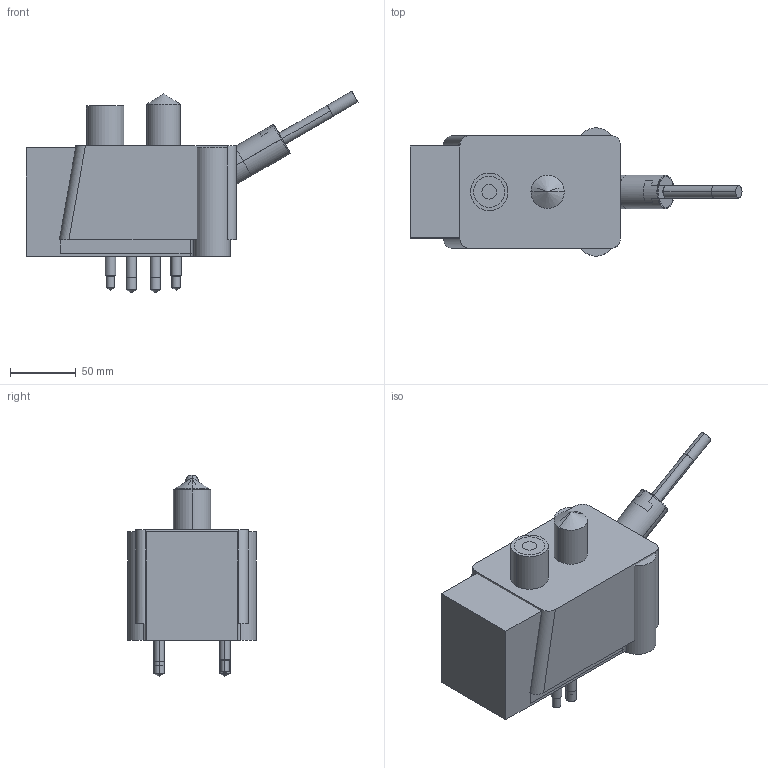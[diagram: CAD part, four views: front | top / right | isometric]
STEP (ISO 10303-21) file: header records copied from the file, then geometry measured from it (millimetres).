
FILE_DESCRIPTION((' '),'2;1');
FILE_NAME( 'EZ-30-P.stp', '2023-11-29T14:30:52', (' '), ('--- Datakit www.datakit.com---'), ' Datakit CrossCadWare V2020.4 Oct 21 2020', 'Export from SolidLink (Hexagon Production Software)', ' ');
FILE_SCHEMA(('AP242_MANAGED_MODEL_BASED_3D_ENGINEERING_MIM_LF { 1 0 10303 442 1 1 4 }'));
Length unit declared in the file: millimetre
Products named in the file (123): Workplanes; 1700579420; 1679432413; 1700502945; 1700503051; 1679423706; 1679423709; 1679423710; 1679423711; 1679423731; 1679423738; 1679423739; 1679423740; 1679423741; 1679423742; 1700837994; 1700838096; 1701270096; 1701286864; 1701286865; 1701286866; 1701286867; 1701286868; 1701286869; 1701286870; 1701286871; 1701286872; 1701286873; 1701286874; 1701286875; 1701286876; 1701286877; 1701286878; 1701286879; 1701286880; 1701286881; 1701286882; 1701286883; 1701286884; 1701286885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
Bounding box: 252.99 x 97.7 x 153.54 mm (x, y, z)
Volume: 2500207.9 mm3; surface area: 226299.1 mm2
Topology: 16 solids, 17 shells, 369 faces, 1056 edges, 935 vertices
Faces by surface type: plane 142, cylinder 125, cone 86, torus 6, revolution 4, sphere 4, bspline 2
Entity records: 16621 total; most frequent: CARTESIAN_POINT 5329, DIRECTION 2310, ORIENTED_EDGE 1660, AXIS2_PLACEMENT_3D 917, EDGE_CURVE 836, VERTEX_POINT 531, VECTOR 472, LINE 472
